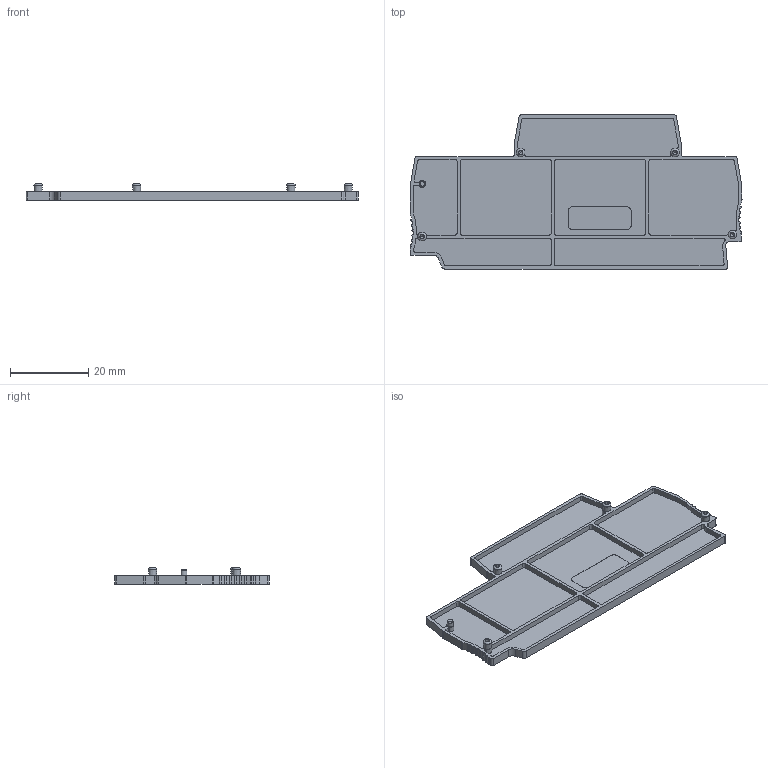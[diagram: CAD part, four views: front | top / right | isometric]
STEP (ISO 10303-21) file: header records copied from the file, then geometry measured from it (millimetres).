
FILE_DESCRIPTION(('Open CASCADE Model'),'2;1');
FILE_NAME('Open CASCADE Shape Model','2022-12-06T17:28:03',('Author'),( 'Open CASCADE'),'Open CASCADE STEP processor 6.5','Open CASCADE 6.5' ,'Unknown');
FILE_SCHEMA(('AUTOMOTIVE_DESIGN { 1 0 10303 214 1 1 1 1 }'));
Length unit declared in the file: millimetre
Products named in the file (231): CADSOFTTOOLS 4; CADSOFTTOOLS 4.1; CADSOFTTOOLS 4.2; CADSOFTTOOLS 4.3; CADSOFTTOOLS 4.4; CADSOFTTOOLS 4.5; CADSOFTTOOLS 4.6; CADSOFTTOOLS 4.7; CADSOFTTOOLS 4.8; CADSOFTTOOLS 4.9; CADSOFTTOOLS 4.10; CADSOFTTOOLS 4.11; CADSOFTTOOLS 4.12; CADSOFTTOOLS 4.13; CADSOFTTOOLS 4.14; CADSOFTTOOLS 4.15; CADSOFTTOOLS 4.16; CADSOFTTOOLS 4.17; CADSOFTTOOLS 4.18; CADSOFTTOOLS 4.19; CADSOFTTOOLS 4.20; CADSOFTTOOLS 4.21; CADSOFTTOOLS 4.22; CADSOFTTOOLS 4.23; CADSOFTTOOLS 4.24; CADSOFTTOOLS 4.25; CADSOFTTOOLS 4.26; CADSOFTTOOLS 4.27; CADSOFTTOOLS 4.28; CADSOFTTOOLS 4.29; CADSOFTTOOLS 4.30; CADSOFTTOOLS 4.31; CADSOFTTOOLS 4.32; CADSOFTTOOLS 4.33; CADSOFTTOOLS 4.34; CADSOFTTOOLS 4.35; CADSOFTTOOLS 4.36; CADSOFTTOOLS 4.37; CADSOFTTOOLS 4.38; CADSOFTTOOLS 4.39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
Assembly tree (230 placements, depth 2):
  CADSOFTTOOLS 4
    CADSOFTTOOLS 4.1
    CADSOFTTOOLS 4.2
    CADSOFTTOOLS 4.3
    CADSOFTTOOLS 4.4
    CADSOFTTOOLS 4.5
    CADSOFTTOOLS 4.6
    CADSOFTTOOLS 4.7
    CADSOFTTOOLS 4.8
    CADSOFTTOOLS 4.9
    CADSOFTTOOLS 4.10
    CADSOFTTOOLS 4.11
    CADSOFTTOOLS 4.12
    CADSOFTTOOLS 4.13
    CADSOFTTOOLS 4.14
    CADSOFTTOOLS 4.15
    CADSOFTTOOLS 4.16
    CADSOFTTOOLS 4.17
    CADSOFTTOOLS 4.18
    CADSOFTTOOLS 4.19
    CADSOFTTOOLS 4.20
    CADSOFTTOOLS 4.21
    CADSOFTTOOLS 4.22
    CADSOFTTOOLS 4.23
    CADSOFTTOOLS 4.24
    CADSOFTTOOLS 4.25
    CADSOFTTOOLS 4.26
    CADSOFTTOOLS 4.27
    CADSOFTTOOLS 4.28
    CADSOFTTOOLS 4.29
    CADSOFTTOOLS 4.30
    CADSOFTTOOLS 4.31
    CADSOFTTOOLS 4.32
    CADSOFTTOOLS 4.33
    CADSOFTTOOLS 4.34
    CADSOFTTOOLS 4.35
    CADSOFTTOOLS 4.36
    CADSOFTTOOLS 4.37
    CADSOFTTOOLS 4.38
    CADSOFTTOOLS 4.39
    CADSOFTTOOLS 4.40
    CADSOFTTOOLS 4.41
    CADSOFTTOOLS 4.42
    CADSOFTTOOLS 4.43
    CADSOFTTOOLS 4.44
    CADSOFTTOOLS 4.45
    CADSOFTTOOLS 4.46
    CADSOFTTOOLS 4.47
    CADSOFTTOOLS 4.48
    CADSOFTTOOLS 4.49
    CADSOFTTOOLS 4.50
    CADSOFTTOOLS 4.51
    CADSOFTTOOLS 4.52
    CADSOFTTOOLS 4.53
    CADSOFTTOOLS 4.54
    CADSOFTTOOLS 4.55
    CADSOFTTOOLS 4.56
    CADSOFTTOOLS 4.57
    CADSOFTTOOLS 4.58
    CADSOFTTOOLS 4.59
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Bounding box: 84.7 x 39.3 x 4.2 mm (x, y, z)
Surface area: 7065.3 mm2 (no closed solid volume)
Topology: 0 solids, 230 shells, 230 faces, 1244 edges, 1222 vertices
Faces by surface type: cylinder 119, plane 98, cone 5, bspline 4, torus 4
Full cylindrical faces by diameter (mm): 1 x4, 1.5 x1, 2.154 x4
Entity records: 26577 total; most frequent: CARTESIAN_POINT 6416, DIRECTION 3300, ORIENTED_EDGE 1266, PCURVE 1266, DEFINITIONAL_REPRESENTATION 1266, EDGE_CURVE 1244, LINE 1232, VECTOR 1232
